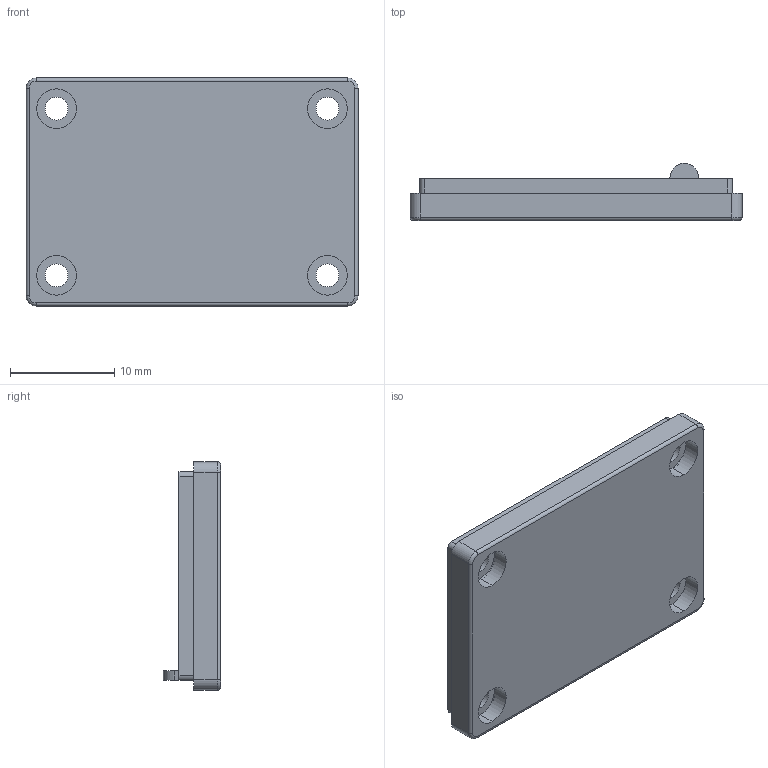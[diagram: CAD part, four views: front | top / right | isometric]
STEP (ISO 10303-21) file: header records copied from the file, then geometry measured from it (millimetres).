
FILE_DESCRIPTION (( 'STEP AP214' ), '1' );
FILE_NAME ('Base PP85A.STEP', '2018-01-22T10:48:44', ( 'aaa' ), ( '' ), 'SwSTEP 2.0', 'SolidWorks 2013', '' );
FILE_SCHEMA (( 'AUTOMOTIVE_DESIGN' ));
Length unit declared in the file: millimetre
Products named in the file (1): Base PP85A
Bounding box: 31.86 x 5.5 x 21.9 mm (x, y, z)
Volume: 1353.8 mm3; surface area: 2144.6 mm2
Topology: 1 solids, 1 shells, 61 faces, 154 edges, 100 vertices
Faces by surface type: cylinder 35, plane 22, torus 4
Entity records: 1908 total; most frequent: DIRECTION 352, CARTESIAN_POINT 316, ORIENTED_EDGE 308, EDGE_CURVE 154, AXIS2_PLACEMENT_3D 136, VERTEX_POINT 100, VECTOR 80, LINE 80
